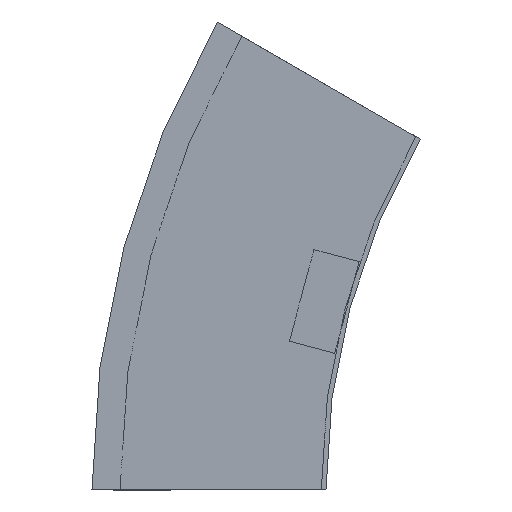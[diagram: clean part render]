
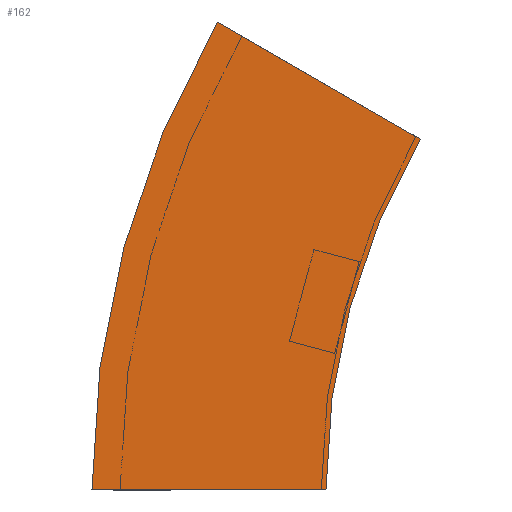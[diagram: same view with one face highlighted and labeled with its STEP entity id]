
A CAD part, left-side view. The second image highlights one B-rep face of the part: STEP entity #162.
In plain terms, the highlighted planar face has unit normal (-1, 0, 0) as drawn and (1, 0, 0) by its records, which use the part's own axes.
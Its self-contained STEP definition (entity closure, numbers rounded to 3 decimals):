
#3 = DIRECTION ( 'NONE',  ( 0., 0., -1. ) ) ;
#4 = VERTEX_POINT ( 'NONE', #517 ) ;
#30 = CARTESIAN_POINT ( 'NONE',  ( 0., 0., 0. ) ) ;
#41 = CARTESIAN_POINT ( 'NONE',  ( 0., 0., 0. ) ) ;
#48 = VERTEX_POINT ( 'NONE', #30 ) ;
#59 = AXIS2_PLACEMENT_3D ( 'NONE', #41, #73, #3 ) ;
#62 = CARTESIAN_POINT ( 'NONE',  ( 0., 0., 0. ) ) ;
#72 = CIRCLE ( 'NONE', #90, 400. ) ;
#73 = DIRECTION ( 'NONE',  ( 1., 0., 0. ) ) ;
#79 = ORIENTED_EDGE ( 'NONE', *, *, #416, .T. ) ;
#90 = AXIS2_PLACEMENT_3D ( 'NONE', #374, #505, #194 ) ;
#125 = DIRECTION ( 'NONE',  ( 0., 1., 0. ) ) ;
#127 = DIRECTION ( 'NONE',  ( 1., 0., 0. ) ) ;
#136 = AXIS2_PLACEMENT_3D ( 'NONE', #513, #127, #125 ) ;
#147 = CIRCLE ( 'NONE', #136, 300. ) ;
#156 = ORIENTED_EDGE ( 'NONE', *, *, #185, .F. ) ;
#162 = ADVANCED_FACE ( 'NONE', ( #396 ), #202, .T. ) ;
#171 = LINE ( 'NONE', #178, #323 ) ;
#178 = CARTESIAN_POINT ( 'NONE',  ( 0., -40.192, 150. ) ) ;
#185 = EDGE_CURVE ( 'NONE', #48, #509, #147, .T. ) ;
#194 = DIRECTION ( 'NONE',  ( 0., 1., 0. ) ) ;
#202 = PLANE ( 'NONE',  #59 ) ;
#211 = DIRECTION ( 'NONE',  ( 0., 0.866, 0.5 ) ) ;
#267 = ORIENTED_EDGE ( 'NONE', *, *, #459, .T. ) ;
#323 = VECTOR ( 'NONE', #211, 1000. ) ;
#352 = EDGE_CURVE ( 'NONE', #509, #377, #171, .T. ) ;
#374 = CARTESIAN_POINT ( 'NONE',  ( 0., -300., 0. ) ) ;
#377 = VERTEX_POINT ( 'NONE', #525 ) ;
#379 = DIRECTION ( 'NONE',  ( 0., 1., 0. ) ) ;
#396 = FACE_OUTER_BOUND ( 'NONE', #415, .T. ) ;
#415 = EDGE_LOOP ( 'NONE', ( #79, #434, #156, #267 ) ) ;
#416 = EDGE_CURVE ( 'NONE', #4, #377, #72, .T. ) ;
#417 = CARTESIAN_POINT ( 'NONE',  ( 0., -40.192, 150. ) ) ;
#434 = ORIENTED_EDGE ( 'NONE', *, *, #352, .F. ) ;
#459 = EDGE_CURVE ( 'NONE', #48, #4, #461, .T. ) ;
#461 = LINE ( 'NONE', #62, #484 ) ;
#484 = VECTOR ( 'NONE', #379, 1000. ) ;
#505 = DIRECTION ( 'NONE',  ( 1., 0., 0. ) ) ;
#509 = VERTEX_POINT ( 'NONE', #417 ) ;
#513 = CARTESIAN_POINT ( 'NONE',  ( 0., -300., 0. ) ) ;
#517 = CARTESIAN_POINT ( 'NONE',  ( 0., 100., 0. ) ) ;
#525 = CARTESIAN_POINT ( 'NONE',  ( 0., 46.41, 200. ) ) ;
